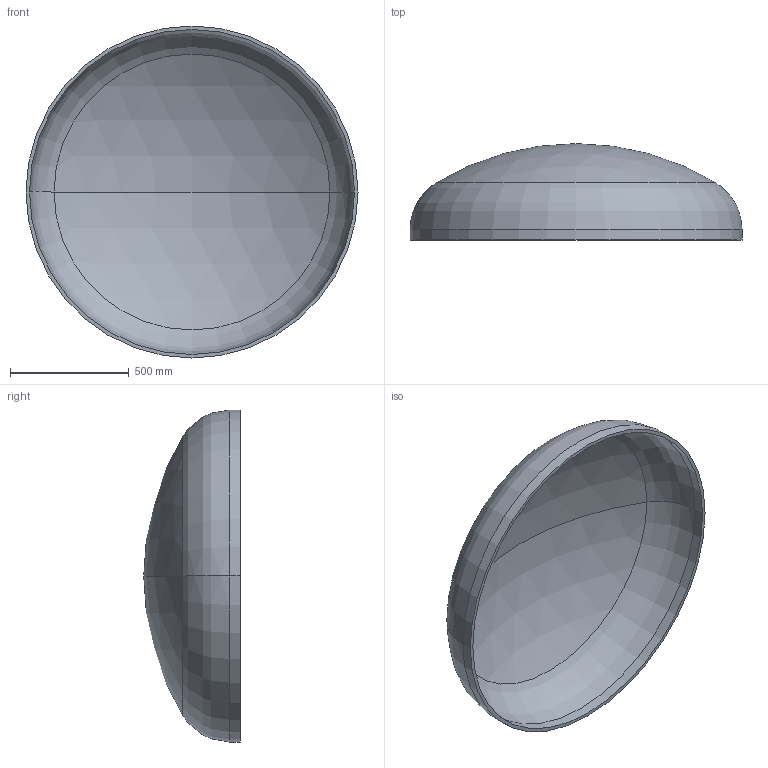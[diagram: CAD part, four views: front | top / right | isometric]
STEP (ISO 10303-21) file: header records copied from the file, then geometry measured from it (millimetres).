
FILE_DESCRIPTION (( 'STEP AP203' ), '1' );
FILE_NAME ('DIN 28013 Korbbogenform_-_Boden DIN 28013 - 1400 x 45 - I - s=15.step', '2016-07-01T10:08:54', ( '' ), ( '' ), 'SwSTEP 2.0', 'SolidWorks 2013', '' );
FILE_SCHEMA (( 'CONFIG_CONTROL_DESIGN' ));
Length unit declared in the file: millimetre
Products named in the file (1): DIN 28013 Korbbogenform_-_Boden DIN 28013 - 1400 x 45 - I - s=15
Bounding box: 1400 x 406.61 x 1400 mm (x, y, z)
Volume: 34450131.9 mm3; surface area: 4659087.1 mm2
Topology: 1 solids, 1 shells, 13 faces, 24 edges, 14 vertices
Faces by surface type: torus 4, cylinder 4, sphere 4, plane 1
Entity records: 407 total; most frequent: DIRECTION 72, CARTESIAN_POINT 52, ORIENTED_EDGE 48, AXIS2_PLACEMENT_3D 34, EDGE_CURVE 24, CIRCLE 20, VERTEX_POINT 14, EDGE_LOOP 14
